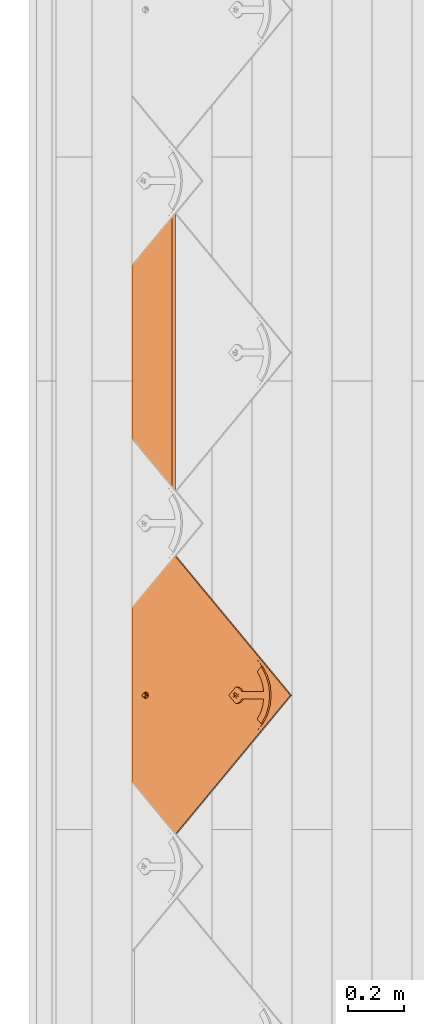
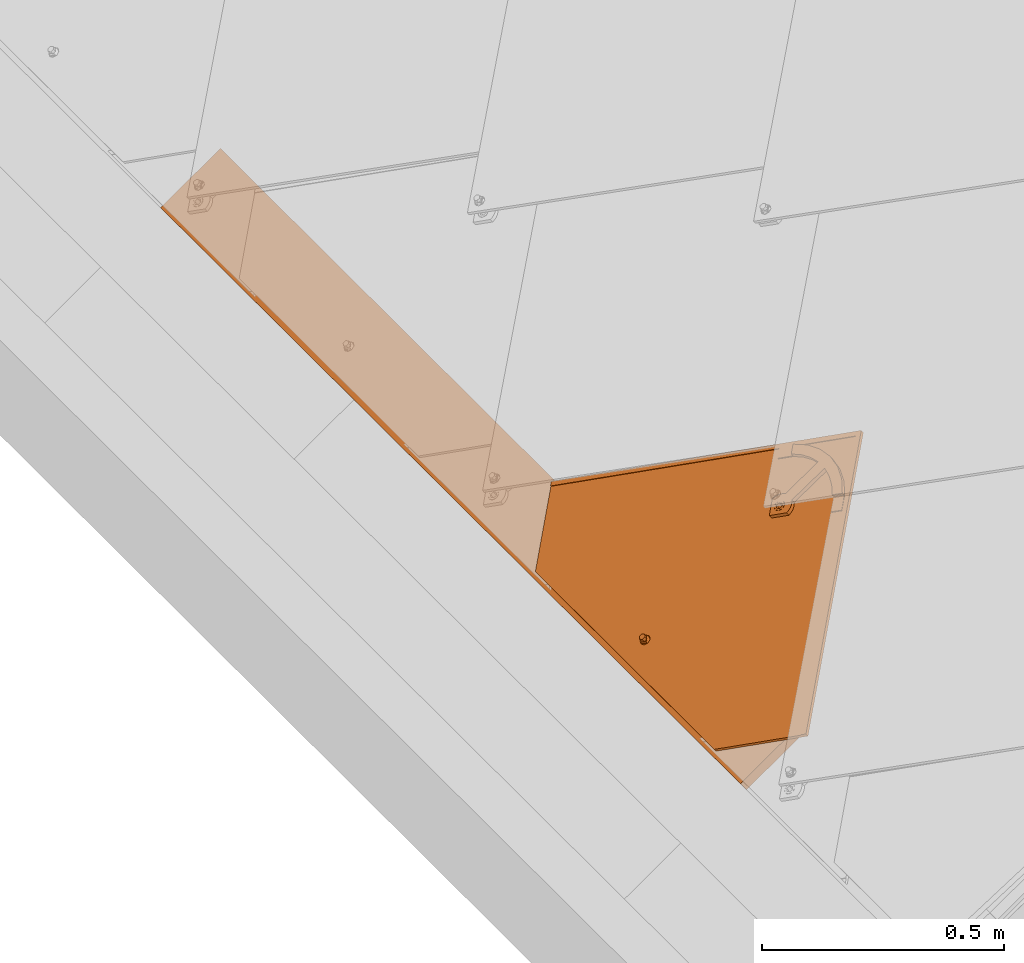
# One storey, part 25 of 151: 2 proxies, 1 element without a shape of its own.
"""IFC2X3 building model written with IfcOpenShell, lengths in millimetres."""

from ifc_helpers import new_model, entity, si_unit, converted_unit, derived_unit, direction, frame, frame_2d, origin, place, context, subcontext, project, spatial, rectangle, extrude, faceted_brep, source, transform, mapped, material, material_list, type_object, type_shapes, element, aggregate, save


model = new_model("IFC2X3")

# Units and contexts
model_context = context("Model", 3, precision=0.01, world=origin(), true_north=direction((6.12303176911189e-17, 1.0)))
body_context = subcontext(model_context, "Body", "Model", "MODEL_VIEW")
ifc_project = project(units=[si_unit("LENGTHUNIT", "METRE", prefix="MILLI"), si_unit("AREAUNIT", "SQUARE_METRE"), si_unit("VOLUMEUNIT", "CUBIC_METRE"), converted_unit("PLANEANGLEUNIT", "DEGREE", entity("IfcRatioMeasure", 0.0174532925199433), si_unit("PLANEANGLEUNIT", "RADIAN"), dimensions=[0, 0, 0, 0, 0, 0, 0]), si_unit("MASSUNIT", "GRAM", prefix="KILO"), derived_unit("MASSDENSITYUNIT", [(si_unit("MASSUNIT", "GRAM", prefix="KILO"), 1), (si_unit("LENGTHUNIT", "METRE"), -3)]), si_unit("TIMEUNIT", "SECOND"), si_unit("FREQUENCYUNIT", "HERTZ"), si_unit("THERMODYNAMICTEMPERATUREUNIT", "DEGREE_CELSIUS"), derived_unit("THERMALTRANSMITTANCEUNIT", [(si_unit("MASSUNIT", "GRAM", prefix="KILO"), 1), (si_unit("THERMODYNAMICTEMPERATUREUNIT", "KELVIN"), -1), (si_unit("TIMEUNIT", "SECOND"), -3)]), derived_unit("VOLUMETRICFLOWRATEUNIT", [(si_unit("LENGTHUNIT", "METRE"), 3), (si_unit("TIMEUNIT", "SECOND"), -1)]), si_unit("ELECTRICCURRENTUNIT", "AMPERE"), si_unit("ELECTRICVOLTAGEUNIT", "VOLT"), si_unit("POWERUNIT", "WATT"), si_unit("FORCEUNIT", "NEWTON", prefix="KILO"), si_unit("ILLUMINANCEUNIT", "LUX"), si_unit("LUMINOUSFLUXUNIT", "LUMEN"), si_unit("LUMINOUSINTENSITYUNIT", "CANDELA"), derived_unit("USERDEFINED", [(si_unit("MASSUNIT", "GRAM", prefix="KILO"), -1), (si_unit("LENGTHUNIT", "METRE"), -2), (si_unit("TIMEUNIT", "SECOND"), 3), (si_unit("LUMINOUSFLUXUNIT", "LUMEN"), 1)]), derived_unit("LINEARVELOCITYUNIT", [(si_unit("LENGTHUNIT", "METRE"), 1), (si_unit("TIMEUNIT", "SECOND"), -1)]), si_unit("PRESSUREUNIT", "PASCAL"), derived_unit("USERDEFINED", [(si_unit("LENGTHUNIT", "METRE"), -2), (si_unit("MASSUNIT", "GRAM", prefix="KILO"), 1), (si_unit("TIMEUNIT", "SECOND"), -2)])], contexts=[model_context])

# Site, building, storey
site_placement = place(None, origin())
site = spatial("IfcSite", under=ifc_project, at=site_placement, Name="Default", CompositionType="ELEMENT")
building_placement = place(site_placement, origin())
building = spatial("IfcBuilding", under=site, at=building_placement, CompositionType="ELEMENT")
storey_placement = place(building_placement, origin())
storey = spatial("IfcBuildingStorey", under=building, at=storey_placement, Name="Level 1", CompositionType="ELEMENT", Elevation=0.0)

# Assembly, proxy
assembly_placement = place(storey_placement, origin())
assembly = element("IfcElementAssembly", 1, at=assembly_placement, inside=storey, Name="Structural Framing Assembly:Roof Construction Assembly", ObjectType="Structural Framing Assembly:Roof Construction Assembly", AssemblyPlace="NOTDEFINED", PredefinedType="USERDEFINED")
ifc_material_1 = material(Name="Wood - Generic - Wood For Showcase")
building_element_proxy_type_1 = type_object("IfcBuildingElementProxyType", Name="Structural Framing 15", PredefinedType="NOTDEFINED", material=ifc_material_1)
shared_shape_1 = source(origin(), body_context, "Body", "SweptSolid", [
    extrude(rectangle(XDim=24.9999999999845, YDim=174.344679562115, at=frame_2d((-1.77635683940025e-13, -4.54747350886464e-13), x_axis=(0.0, 1.0))), frame((1128.20180147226, 1525.55080214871, 2760.23940055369), z_axis=(0.0, 1.0, 0.0), x_axis=(-0.819152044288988, 0.0, -0.573576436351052)), (0.0, 0.0, 1.0), 2400.0),
])
type_shapes(building_element_proxy_type_1, [shared_shape_1])
proxy_1_placement = place(assembly_placement, frame((-3370.06734507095, -4870.0, -2400.0)))
proxy_1 = element("IfcBuildingElementProxy", 2, at=proxy_1_placement, type_object=building_element_proxy_type_1, material=ifc_material_1, Name="Structural Framing 137:Structural Framing 15", ObjectType="Structural Framing 137:Structural Framing 15", context=body_context, shape_type="MappedRepresentation", body=[
    mapped(shared_shape_1, transform((0.0, 0.0, 0.0), scale=1.0)),
])
aggregate(assembly, [proxy_1])

# Proxy
ifc_material_2 = material(Name="Rubber - Sunstyle - Black")
ifc_material_3 = material(Name="Glass - Sunstyle - Tainted Black")
ifc_material_list_1 = material_list([ifc_material_2, ifc_material_3])
ifc_material_list_2 = material_list([ifc_material_2, ifc_material_3])
building_element_proxy_type_2 = type_object("IfcBuildingElementProxyType", Name="Shingle Bottom - Black", PredefinedType="NOTDEFINED", material=ifc_material_list_2)
shared_shape_2 = source(origin(), body_context, "Body", "Brep", [
    faceted_brep([(0.0, -1.79273515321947, -4.01619789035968), (-5.7742028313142, -5.12600528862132, -3.96037390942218), (-5.77420283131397, -4.75769619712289, 18.0314954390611), (0.0, -1.42442606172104, 17.9756714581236), (-5.77420283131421, -11.792545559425, -3.84872594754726), (-5.77420283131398, -11.4242364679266, 18.143143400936), (0.0, -15.1258156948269, -3.79290196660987), (0.0, -14.7575066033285, 18.1989673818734), (5.77420283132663, -11.7925455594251, -3.84872594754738), (5.77420283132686, -11.4242364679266, 18.1431434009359), (5.77420283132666, -5.12600528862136, -3.96037390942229), (5.77420283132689, -4.75769619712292, 18.031495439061), (-8.60370416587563, -16.6934641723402, 18.2313898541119), (0.0, -20.2567354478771, 18.2910657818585), (-12.1674751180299, -8.09096633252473, 18.0873194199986), (-8.60370416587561, 0.511531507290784, 17.9432489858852), (0.0, 4.07480278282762, 17.8835730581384), (8.60370416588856, 0.511531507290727, 17.9432489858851), (12.1674751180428, -8.09096633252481, 18.0873194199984), (8.60370416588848, -16.6934641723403, 18.2313898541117), (-11.4302228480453, -6.71737066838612, 20.4858706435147), (-9.77051349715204, -8.02009729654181, 22.3189355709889), (0.0, -0.706876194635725, 22.9603444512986), (0.0, 0.533621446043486, 22.3799978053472), (0.0, 2.69117229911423, 21.3706227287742), (-6.32324569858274, -4.35709193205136, 23.021476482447), (-6.32324569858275, -11.6575234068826, 23.1437405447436), (0.0, -18.7571148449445, 21.7298281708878), (0.0, -15.3077391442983, 23.2048725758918), (10.9851748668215, -11.808022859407, 20.3827540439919), (10.123850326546, -8.02413622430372, 22.0777687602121), (6.32324569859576, -4.3570919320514, 23.0214764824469), (6.32324569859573, -11.6575234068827, 23.1437405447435), (-6.32324569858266, -11.5234949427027, 31.146628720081), (0.0, -15.1737106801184, 31.2077607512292), (0.0, -7.8732792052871, 31.0854966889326), (-6.32324569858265, -4.22306346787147, 31.0243646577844), (6.32324569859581, -11.5234949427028, 31.1466287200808), (6.32324569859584, -4.22306346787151, 31.0243646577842), (0.0, -0.57284773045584, 30.963232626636), (0.0, -8.45927542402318, -3.90454992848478)], [[[0, 1, 2, 3]], [[1, 4, 5, 2]], [[4, 6, 7, 5]], [[6, 8, 9, 7]], [[8, 10, 11, 9]], [[10, 0, 3, 11]], [[12, 7, 13]], [[7, 12, 5]], [[14, 5, 12]], [[5, 14, 2]], [[15, 2, 14]], [[3, 2, 15]], [[15, 16, 3]], [[16, 17, 3]], [[11, 3, 17]], [[11, 17, 18]], [[9, 11, 18]], [[18, 19, 9]], [[7, 9, 19]], [[19, 13, 7]], [[15, 20, 16]], [[21, 22, 23, 24]], [[22, 21, 25]], [[20, 14, 12]], [[15, 14, 20]], [[25, 21, 26]], [[20, 24, 16]], [[12, 13, 27]], [[12, 27, 20]], [[21, 28, 26]], [[21, 27, 28]], [[20, 21, 24]], [[20, 27, 21]], [[19, 29, 13]], [[30, 23, 31]], [[30, 28, 27]], [[24, 23, 30]], [[29, 27, 13]], [[19, 18, 29]], [[29, 30, 27]], [[29, 17, 24]], [[24, 17, 16]], [[31, 32, 30]], [[23, 22, 31]], [[28, 30, 32]], [[29, 24, 30]], [[29, 18, 17]], [[33, 34, 35]], [[35, 36, 33]], [[34, 37, 35]], [[38, 35, 37]], [[35, 38, 39]], [[35, 39, 36]], [[40, 6, 4]], [[4, 1, 40]], [[1, 0, 40]], [[40, 8, 6]], [[0, 10, 40]], [[8, 40, 10]], [[22, 25, 36, 39]], [[25, 26, 33, 36]], [[26, 28, 34, 33]], [[28, 32, 37, 34]], [[32, 31, 38, 37]], [[31, 22, 39, 38]]]),
    faceted_brep([(0.0, 372.824876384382, 20.3195200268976), (0.0, 377.324245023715, 20.2441667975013), (-8.60370416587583, 376.388147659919, 20.2598440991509), (8.60370416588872, 376.388147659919, 20.2598440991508), (6.64022859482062, 381.157445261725, 20.1799702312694), (12.1674751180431, 384.990645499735, 20.1157736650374), (6.64022859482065, 388.823845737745, 20.0515770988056), (8.6037041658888, 393.59314333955, 19.9717032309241), (0.0, 392.657045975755, 19.9873805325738), (0.0, 397.156414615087, 19.9120273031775), (-8.60370416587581, 393.59314333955, 19.9717032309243), (-6.64022859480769, 388.823845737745, 20.0515770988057), (-12.1674751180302, 384.990645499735, 20.1157736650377), (-6.6402285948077, 381.157445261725, 20.1799702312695), (-6.6402282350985, 388.555922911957, 4.05382046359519), (0.0, 392.389122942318, 3.98962390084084), (-6.64022823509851, 380.889522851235, 4.18221358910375), (0.0, 377.056322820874, 4.24641015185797), (6.64022823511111, 380.889522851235, 4.18221358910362), (6.64022823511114, 388.555922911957, 4.05382046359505), (-8.603704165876, 376.12022504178, 4.26208746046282), (0.0, 372.556953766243, 4.32176338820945), (-12.1674751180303, 384.722722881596, 4.11801702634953), (-8.60370416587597, 393.325220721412, 3.97394659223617), (0.0, 396.888491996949, 3.91427066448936), (8.60370416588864, 393.325220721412, 3.97394659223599), (12.1674751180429, 384.722722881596, 4.11801702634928), (8.60370416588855, 376.12022504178, 4.26208746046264)], [[[0, 1, 2]], [[1, 0, 3]], [[3, 4, 1]], [[4, 3, 5]], [[6, 4, 5]], [[5, 7, 6]], [[7, 8, 6]], [[8, 7, 9]], [[8, 9, 10]], [[10, 11, 8]], [[12, 11, 10]], [[2, 13, 12]], [[12, 13, 11]], [[13, 2, 1]], [[8, 11, 14, 15]], [[11, 13, 16, 14]], [[13, 1, 17, 16]], [[1, 4, 18, 17]], [[4, 6, 19, 18]], [[6, 8, 15, 19]], [[20, 17, 21]], [[17, 20, 16]], [[22, 16, 20]], [[14, 16, 22]], [[23, 14, 22]], [[15, 14, 23]], [[23, 24, 15]], [[24, 25, 15]], [[19, 15, 25]], [[19, 25, 26]], [[26, 18, 19]], [[26, 27, 18]], [[17, 18, 27]], [[27, 21, 17]], [[24, 23, 10, 9]], [[10, 23, 22, 12]], [[20, 21, 0, 2]], [[20, 2, 12, 22]], [[21, 27, 3, 0]], [[3, 27, 26, 5]], [[25, 24, 9, 7]], [[25, 7, 5, 26]]]),
    faceted_brep([(518.247351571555, 79.9143812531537, 14.965257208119), (526.732038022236, 88.3990677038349, 14.8231598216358), (526.732038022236, 88.4241854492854, 16.3229495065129), (518.247351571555, 79.9394989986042, 16.4650468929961), (0.000322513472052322, 598.016093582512, 6.28834266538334), (-518.246706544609, 79.9143812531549, 14.9652572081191), (-526.73139299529, 88.3990677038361, 14.8231598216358), (0.000322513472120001, 614.983087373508, 6.00418773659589), (0.000322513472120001, 615.008205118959, 7.50397742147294), (-526.731392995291, 88.4241854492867, 16.3229495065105), (-518.246706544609, 79.9394989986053, 16.465046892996), (0.000322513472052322, 598.041211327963, 7.78813235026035)], [[[0, 1, 2, 3]], [[1, 0, 4, 5, 6, 7]], [[2, 1, 7, 8]], [[3, 2, 8, 9, 10, 11]], [[0, 3, 11, 4]], [[5, 10, 9, 6]], [[8, 7, 6, 9]], [[4, 11, 10, 5]]]),
    faceted_brep([(0.00032251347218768, 614.983087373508, 6.00418773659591), (-2.87802047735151, 396.187349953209, 9.66847193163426), (0.227808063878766, 396.596182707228, 9.6616250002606), (-5.77219193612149, 394.988712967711, 9.68854611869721), (3.3336366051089, 396.187349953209, 9.66847193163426), (6.22780806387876, 394.988712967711, 9.6885461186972), (8.71308943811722, 393.081956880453, 9.72047953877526), (10.620112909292, 390.59702396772, 9.76209598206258), (-8.25747331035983, 393.081956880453, 9.72047953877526), (-10.1644967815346, 390.59702396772, 9.76209598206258), (-11.3633018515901, 387.703258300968, 9.81055935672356), (-526.731392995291, 88.3990677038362, 14.8231598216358), (11.8189179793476, 387.703258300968, 9.81055935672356), (526.732038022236, 88.3990677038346, 14.8231598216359), (-11.7721919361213, 384.597865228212, 9.86256696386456), (-11.3633018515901, 381.492472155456, 9.91457457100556), (-10.1644967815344, 378.598706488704, 9.96303794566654), (-370.355016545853, -67.9334607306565, 17.4413406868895), (-8.25747331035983, 376.113773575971, 10.0046543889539), (-5.65685424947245, -2.29422365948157, 16.3420467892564), (-6.92820323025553, -3.95084560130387, 16.3697910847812), (-7.72740661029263, -5.88002271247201, 16.4021000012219), (-8.0, -7.95028476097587, 16.4367717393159), (-7.72740661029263, -10.0205468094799, 16.4714434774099), (-6.9282032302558, -11.9497239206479, 16.5037523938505), (-5.65685424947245, -13.6063458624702, 16.5314966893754), (-4.0, -14.8775165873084, 16.5527856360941), (-2.07055236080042, -15.676607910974, 16.5661684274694), (0.0, -15.9491630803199, 16.5707330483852), (370.355661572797, -67.9334607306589, 17.4413406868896), (10.620112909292, 378.598706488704, 9.96303794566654), (8.71308943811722, 376.11377357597, 10.0046543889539), (5.65685424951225, -2.29422365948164, 16.3420467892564), (6.92820323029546, -3.9508456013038, 16.3697910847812), (7.72740661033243, -5.88002271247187, 16.4021000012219), (8.0, -7.9502847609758, 16.4367717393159), (7.72740661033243, -10.0205468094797, 16.4714434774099), (6.92820323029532, -11.9497239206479, 16.5037523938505), (5.65685424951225, -13.6063458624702, 16.5314966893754), (4.0, -14.8775165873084, 16.5527856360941), (2.07055236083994, -15.676607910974, 16.5661684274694), (-5.77219193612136, 374.207017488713, 10.0365878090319), (-4.0, -1.02305293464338, 16.3207578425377), (-2.87802047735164, 373.008380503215, 10.0566619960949), (-2.07055236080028, -0.223961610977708, 16.3073750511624), (0.227808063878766, 372.599547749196, 10.0635089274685), (0.0, 0.0485935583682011, 16.3028104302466), (2.07055236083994, -0.223961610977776, 16.3073750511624), (3.3336366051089, 373.008380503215, 10.0566619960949), (4.0, -1.02305293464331, 16.3207578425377), (6.22780806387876, 374.207017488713, 10.0365878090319), (12.2278080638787, 384.597865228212, 9.86256696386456), (11.8189179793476, 381.492472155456, 9.91457457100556), (-370.355016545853, -68.059049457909, 9.94239226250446), (-6.92820323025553, -4.07643432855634, 8.87084266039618), (-7.72740661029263, -6.00561143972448, 8.90315157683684), (-8.0, -8.07587348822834, 8.93782331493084), (-7.72740661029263, -10.1461355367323, 8.97249505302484), (-6.9282032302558, -12.0753126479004, 9.00480396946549), (-5.65685424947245, -13.7319345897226, 9.03254826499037), (-5.65685424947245, -2.41981238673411, 8.8430983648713), (-8.25747331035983, 375.988184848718, 2.50570596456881), (-4.0, -15.0031053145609, 9.05383721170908), (-2.07055236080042, -15.8021966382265, 9.06722000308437), (0.0, -16.0747518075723, 9.07178462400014), (370.355661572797, -68.0590494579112, 9.9423922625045), (-10.1644967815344, 378.473117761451, 2.46408952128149), (-526.731392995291, 88.2734789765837, 7.32421139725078), (-11.3633018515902, 381.366883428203, 2.41562614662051), (-11.7721919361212, 384.472276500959, 2.36361853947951), (-11.3633018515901, 387.577669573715, 2.3116109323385), (0.00032251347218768, 614.857498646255, -1.49476068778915), (-10.1644967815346, 390.471435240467, 2.26314755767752), (-8.25747331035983, 392.956368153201, 2.22153111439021), (-5.77219193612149, 394.863124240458, 2.18959769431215), (-2.87802047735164, 396.061761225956, 2.16952350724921), (0.227808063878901, 396.470593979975, 2.16267657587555), (3.3336366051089, 396.061761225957, 2.1695235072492), (6.22780806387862, 394.863124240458, 2.18959769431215), (8.71308943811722, 392.956368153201, 2.2215311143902), (10.620112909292, 390.471435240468, 2.26314755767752), (11.8189179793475, 387.577669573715, 2.31161093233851), (526.732038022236, 88.2734789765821, 7.32421139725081), (12.2278080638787, 384.472276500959, 2.3636185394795), (10.620112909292, 378.473117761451, 2.46408952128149), (11.8189179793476, 381.366883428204, 2.41562614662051), (-5.77219193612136, 374.08142876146, 2.53763938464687), (-4.0, -1.14864166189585, 8.8218094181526), (-2.87802047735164, 372.882791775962, 2.55771357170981), (-2.07055236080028, -0.349550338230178, 8.8084266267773), (0.227808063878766, 372.473959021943, 2.56456050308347), (0.0, -0.0769951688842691, 8.80386200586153), (2.07055236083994, -0.349550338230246, 8.8084266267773), (3.3336366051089, 372.882791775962, 2.55771357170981), (4.0, -1.14864166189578, 8.8218094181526), (6.22780806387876, 374.081428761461, 2.53763938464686), (5.65685424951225, -2.41981238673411, 8.8430983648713), (8.71308943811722, 375.988184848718, 2.50570596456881), (6.92820323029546, -4.07643432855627, 8.87084266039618), (7.72740661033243, -6.00561143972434, 8.90315157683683), (8.0, -8.07587348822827, 8.93782331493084), (7.72740661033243, -10.1461355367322, 8.97249505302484), (6.92820323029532, -12.0753126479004, 9.00480396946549), (5.65685424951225, -13.7319345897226, 9.03254826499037), (4.0, -15.0031053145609, 9.05383721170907), (2.07055236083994, -15.8021966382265, 9.06722000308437)], [[[0, 1, 2]], [[1, 0, 3]], [[0, 2, 4]], [[4, 5, 0]], [[5, 6, 0]], [[0, 6, 7]], [[8, 3, 0]], [[9, 8, 0]], [[9, 0, 10]], [[10, 0, 11]], [[12, 0, 7]], [[12, 13, 0]], [[11, 14, 10]], [[14, 11, 15]], [[16, 15, 11]], [[11, 17, 16]], [[16, 17, 18]], [[19, 18, 17]], [[19, 17, 20]], [[20, 17, 21]], [[22, 21, 17]], [[22, 17, 23]], [[24, 23, 17]], [[17, 25, 24]], [[26, 25, 17]], [[27, 26, 17]], [[17, 28, 27]], [[28, 17, 29]], [[29, 13, 30]], [[29, 30, 31]], [[29, 31, 32]], [[32, 33, 29]], [[33, 34, 29]], [[35, 29, 34]], [[29, 35, 36]], [[36, 37, 29]], [[29, 37, 38]], [[38, 39, 29]], [[40, 28, 29]], [[39, 40, 29]], [[41, 18, 19]], [[42, 41, 19]], [[42, 43, 41]], [[44, 43, 42]], [[44, 45, 43]], [[46, 45, 44]], [[47, 45, 46]], [[48, 45, 47]], [[49, 48, 47]], [[49, 50, 48]], [[32, 50, 49]], [[32, 31, 50]], [[12, 51, 13]], [[52, 13, 51]], [[13, 52, 30]], [[53, 54, 55]], [[53, 55, 56]], [[56, 57, 53]], [[57, 58, 53]], [[53, 58, 59]], [[60, 54, 53]], [[61, 60, 53]], [[59, 62, 53]], [[62, 63, 53]], [[63, 64, 53]], [[53, 64, 65]], [[66, 61, 53]], [[66, 53, 67]], [[68, 66, 67]], [[69, 68, 67]], [[69, 67, 70]], [[67, 71, 70]], [[72, 70, 71]], [[73, 72, 71]], [[71, 74, 73]], [[74, 71, 75]], [[75, 71, 76]], [[77, 76, 71]], [[77, 71, 78]], [[79, 78, 71]], [[71, 80, 79]], [[80, 71, 81]], [[71, 82, 81]], [[83, 81, 82]], [[84, 82, 65]], [[85, 82, 84]], [[82, 85, 83]], [[86, 60, 61]], [[86, 87, 60]], [[88, 87, 86]], [[89, 87, 88]], [[90, 89, 88]], [[90, 91, 89]], [[92, 91, 90]], [[92, 90, 93]], [[94, 92, 93]], [[93, 95, 94]], [[94, 95, 96]], [[97, 96, 95]], [[96, 97, 65]], [[84, 65, 97]], [[98, 96, 65]], [[99, 98, 65]], [[99, 65, 100]], [[101, 100, 65]], [[102, 101, 65]], [[103, 102, 65]], [[104, 103, 65]], [[105, 104, 65]], [[65, 64, 105]], [[11, 0, 71, 67]], [[17, 11, 67, 53]], [[13, 29, 65, 82]], [[0, 13, 82, 71]], [[22, 56, 55, 21]], [[21, 55, 54, 20]], [[42, 19, 60, 87]], [[60, 19, 20, 54]], [[44, 42, 87, 89]], [[44, 89, 91, 46]], [[46, 91, 92, 47]], [[47, 92, 94, 49]], [[33, 32, 96, 98]], [[96, 32, 49, 94]], [[34, 33, 98, 99]], [[34, 99, 100, 35]], [[35, 100, 101, 36]], [[36, 101, 102, 37]], [[39, 38, 103, 104]], [[103, 38, 37, 102]], [[40, 39, 104, 105]], [[40, 105, 64, 28]], [[28, 64, 63, 27]], [[27, 63, 62, 26]], [[24, 25, 59, 58]], [[59, 25, 26, 62]], [[23, 24, 58, 57]], [[23, 57, 56, 22]], [[14, 69, 70, 10]], [[10, 70, 72, 9]], [[3, 8, 73, 74]], [[73, 8, 9, 72]], [[1, 3, 74, 75]], [[1, 75, 76, 2]], [[2, 76, 77, 4]], [[4, 77, 78, 5]], [[7, 6, 79, 80]], [[79, 6, 5, 78]], [[12, 7, 80, 81]], [[12, 81, 83, 51]], [[51, 83, 85, 52]], [[52, 85, 84, 30]], [[50, 31, 97, 95]], [[97, 31, 30, 84]], [[48, 50, 95, 93]], [[48, 93, 90, 45]], [[45, 90, 88, 43]], [[43, 88, 86, 41]], [[16, 18, 61, 66]], [[41, 86, 61, 18]], [[68, 15, 16, 66]], [[15, 68, 69, 14]], [[29, 17, 53, 65]]]),
    faceted_brep([(-111.269043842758, 451.472531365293, 11.2429332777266), (-84.9443960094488, 477.793488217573, 10.8021227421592), (-102.027571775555, 494.874268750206, 10.5160621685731), (-108.279973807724, 489.512620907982, 10.6058564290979), (-114.2509690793, 483.839345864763, 10.7008696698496), (-128.946713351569, 469.147722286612, 10.9469178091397), (128.946713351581, 469.147722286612, 10.9469178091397), (114.250969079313, 483.839345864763, 10.7008696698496), (108.279973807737, 489.512620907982, 10.6058564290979), (102.027571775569, 494.874268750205, 10.5160621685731), (84.9431983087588, 477.794685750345, 10.802102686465), (111.269043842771, 451.472531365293, 11.2429332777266), (-8.48528137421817, 393.302959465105, 19.7181805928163), (-18.7041061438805, 407.484939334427, 19.4806677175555), (-23.2046504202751, 402.851933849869, 19.5582590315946), (-10.3923048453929, 390.818026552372, 19.7597970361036), (-6.0, 395.209715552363, 19.6862471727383), (-13.2999999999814, 411.02298750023, 19.4214142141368), (-3.10582854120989, 396.408352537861, 19.6661729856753), (0.0, 396.81718529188, 19.6593260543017), (13.3000000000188, 411.022987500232, 19.4214142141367), (3.10582854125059, 396.408352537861, 19.6661729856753), (6.0, 395.209715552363, 19.6862471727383), (18.7041061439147, 407.484939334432, 19.4806677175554), (8.48528137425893, 393.302959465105, 19.7181805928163), (23.2046504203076, 402.85193384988, 19.5582590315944), (10.3923048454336, 390.818026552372, 19.7597970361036), (26.5842195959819, 397.347783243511, 19.6504398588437), (11.5911099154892, 387.92426088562, 19.8082604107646), (28.6795527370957, 391.238383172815, 19.752757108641), (12.0, 384.818867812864, 19.8602680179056), (29.3894280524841, 384.818867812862, 19.8602680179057), (11.5911099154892, 381.713474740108, 19.9122756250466), (10.3923048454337, 378.819709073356, 19.9607389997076), (8.48528137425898, 376.334776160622, 20.0023554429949), (0.0, 355.433560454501, 20.3523987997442), (6.0, 374.428020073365, 20.034288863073), (3.10582854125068, 373.229383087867, 20.0543630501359), (0.0, 372.820550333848, 20.0612099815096), (-3.10582854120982, 373.229383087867, 20.0543630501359), (-6.0, 374.428020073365, 20.034288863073), (-8.48528137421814, 376.334776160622, 20.0023554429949), (-29.3894280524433, 384.818867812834, 19.8602680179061), (-10.3923048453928, 378.819709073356, 19.9607389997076), (-11.5911099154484, 381.713474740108, 19.9122756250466), (-12.0, 384.818867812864, 19.8602680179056), (-28.67955273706, 391.238383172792, 19.7527571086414), (-11.5911099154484, 387.92426088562, 19.8082604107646), (-26.5842195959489, 397.347783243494, 19.650439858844), (-13.2999999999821, 505.810987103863, 17.833951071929), (13.3000000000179, 505.810987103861, 17.833951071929), (0.0, 531.282600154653, 17.4073649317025), (36.4908407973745, 527.108634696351, 17.4772684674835), (38.7697427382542, 500.996106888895, 17.9145883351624), (71.096085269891, 514.802420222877, 17.6833669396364), (62.9243331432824, 491.592473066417, 18.0720758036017), (102.027571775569, 494.999857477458, 18.0150105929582), (84.9443960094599, 477.919076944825, 18.3010711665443), (-36.4908407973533, 527.108634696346, 17.4772684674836), (-38.7697427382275, 500.996106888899, 17.9145883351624), (-71.0960852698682, 514.802420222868, 17.6833669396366), (-62.9243331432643, 491.592473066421, 18.0720758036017), (-102.027571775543, 494.999857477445, 18.0150105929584), (-84.9443960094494, 477.919076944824, 18.3010711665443), (0.0, 355.266108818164, 10.3538009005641), (0.0, 372.653098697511, 10.0626120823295), (3.10582854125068, 373.06193145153, 10.0557651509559), (-3.10582854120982, 373.06193145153, 10.0557651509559), (6.0, 374.260568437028, 10.0356909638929), (8.48528137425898, 376.167324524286, 10.0037575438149), (29.3894280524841, 384.651416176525, 9.86167011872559), (-6.0, 374.260568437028, 10.0356909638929), (-8.48528137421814, 376.167324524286, 10.0037575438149), (-29.3894280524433, 384.651416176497, 9.86167011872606), (-10.3923048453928, 378.652257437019, 9.96214110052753), (-11.5911099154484, 381.546023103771, 9.91367772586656), (-12.0, 384.651416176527, 9.86167011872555), (-28.67955273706, 391.070931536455, 9.75415920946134), (-11.5911099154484, 387.756809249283, 9.80966251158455), (-26.5842195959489, 397.180331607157, 9.65184195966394), (-10.3923048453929, 390.650574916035, 9.76119913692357), (-23.2046504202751, 402.684482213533, 9.5596611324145), (-8.48528137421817, 393.135507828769, 9.71958269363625), (-18.7041061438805, 407.31748769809, 9.48206981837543), (-6.0, 395.042263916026, 9.6876492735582), (-13.2999999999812, 410.855535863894, 9.4228163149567), (-3.10582854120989, 396.240900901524, 9.66757508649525), (0.0, 396.649733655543, 9.66072815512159), (13.3000000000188, 410.855535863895, 9.42281631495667), (-13.2999999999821, 505.643535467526, 7.83535317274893), (13.3000000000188, 505.643535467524, 7.83535317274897), (0.0, 531.115148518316, 7.4087670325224), (-36.4908407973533, 526.94118306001, 7.47867056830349), (-38.7697427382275, 500.828655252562, 7.91599043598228), (-71.0960852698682, 514.634968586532, 7.68476904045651), (-62.9243331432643, 491.425021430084, 8.07347790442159), (-102.027571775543, 494.832405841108, 8.01641269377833), (-84.9431983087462, 477.752822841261, 8.30245321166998), (-108.279973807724, 489.470757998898, 8.10620695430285), (-114.2509690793, 483.79748295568, 8.2012201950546), (-111.269043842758, 451.430668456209, 8.74328380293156), (-128.946713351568, 469.105859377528, 8.44726833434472), (36.4908407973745, 526.941183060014, 7.47867056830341), (38.7697427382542, 500.828655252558, 7.91599043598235), (71.096085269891, 514.634968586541, 7.68476904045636), (62.9243331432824, 491.425021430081, 8.07347790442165), (102.027571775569, 494.832405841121, 8.01641269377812), (84.9443960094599, 477.751625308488, 8.30247326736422), (108.279973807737, 489.470757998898, 8.10620695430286), (114.250969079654, 483.797482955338, 8.20122019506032), (111.269043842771, 451.430668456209, 8.74328380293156), (128.946713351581, 469.105859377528, 8.44726833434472), (3.10582854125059, 396.240900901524, 9.66757508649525), (6.0, 395.042263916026, 9.6876492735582), (18.7041061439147, 407.317487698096, 9.48206981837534), (8.48528137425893, 393.135507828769, 9.71958269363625), (23.2046504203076, 402.684482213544, 9.55966113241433), (10.3923048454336, 390.650574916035, 9.76119913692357), (26.5842195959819, 397.180331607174, 9.65184195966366), (11.5911099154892, 387.756809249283, 9.80966251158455), (28.6795527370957, 391.070931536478, 9.75415920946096), (12.0, 384.651416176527, 9.86167011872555), (11.5911099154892, 381.546023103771, 9.91367772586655), (10.3923048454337, 378.652257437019, 9.96214110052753)], [[[0, 1, 2, 3, 4, 5]], [[6, 7, 8, 9, 10, 11]], [[12, 13, 14]], [[15, 12, 14]], [[16, 13, 12]], [[13, 16, 17]], [[17, 16, 18]], [[18, 19, 17]], [[20, 17, 19]], [[19, 21, 20]], [[22, 20, 21]], [[22, 23, 20]], [[22, 24, 23]], [[25, 23, 24]], [[26, 25, 24]], [[25, 26, 27]], [[26, 28, 27]], [[29, 27, 28]], [[28, 30, 29]], [[31, 29, 30]], [[30, 32, 31]], [[32, 33, 31]], [[31, 33, 34]], [[34, 35, 31]], [[34, 36, 35]], [[37, 35, 36]], [[38, 35, 37]], [[35, 38, 39]], [[40, 35, 39]], [[40, 41, 35]], [[42, 35, 41]], [[43, 42, 41]], [[43, 44, 42]], [[44, 45, 42]], [[45, 46, 42]], [[46, 45, 47]], [[48, 46, 47]], [[47, 15, 48]], [[48, 15, 14]], [[20, 49, 17]], [[49, 20, 50]], [[51, 49, 50]], [[50, 52, 51]], [[53, 52, 50]], [[52, 53, 54]], [[55, 54, 53]], [[54, 55, 56]], [[55, 57, 56]], [[58, 49, 51]], [[49, 58, 59]], [[60, 59, 58]], [[60, 61, 59]], [[61, 60, 62]], [[61, 62, 63]], [[64, 65, 66]], [[65, 64, 67]], [[64, 66, 68]], [[68, 69, 64]], [[64, 69, 70]], [[71, 67, 64]], [[71, 64, 72]], [[72, 64, 73]], [[73, 74, 72]], [[74, 73, 75]], [[76, 75, 73]], [[77, 76, 73]], [[76, 77, 78]], [[78, 77, 79]], [[80, 78, 79]], [[81, 80, 79]], [[82, 80, 81]], [[81, 83, 82]], [[83, 84, 82]], [[84, 83, 85]], [[85, 86, 84]], [[87, 86, 85]], [[87, 85, 88]], [[88, 85, 89]], [[88, 89, 90]], [[89, 91, 90]], [[91, 89, 92]], [[93, 92, 89]], [[94, 92, 93]], [[93, 95, 94]], [[95, 96, 94]], [[97, 96, 95]], [[98, 96, 97]], [[99, 98, 97]], [[97, 100, 99]], [[101, 99, 100]], [[102, 90, 91]], [[90, 102, 103]], [[104, 103, 102]], [[103, 104, 105]], [[105, 104, 106]], [[107, 105, 106]], [[107, 106, 108]], [[109, 107, 108]], [[110, 107, 109]], [[111, 110, 109]], [[87, 88, 112]], [[113, 112, 88]], [[114, 113, 88]], [[115, 113, 114]], [[115, 114, 116]], [[116, 117, 115]], [[116, 118, 117]], [[117, 118, 119]], [[119, 118, 120]], [[121, 119, 120]], [[120, 70, 121]], [[122, 121, 70]], [[70, 69, 123]], [[123, 122, 70]], [[17, 49, 89, 85]], [[13, 17, 85, 83]], [[14, 13, 83, 81]], [[81, 79, 48, 14]], [[46, 48, 79, 77]], [[42, 46, 77, 73]], [[35, 42, 73, 64]], [[31, 35, 64, 70]], [[29, 31, 70, 120]], [[27, 29, 120, 118]], [[118, 116, 25, 27]], [[23, 25, 116, 114]], [[20, 23, 114, 88]], [[50, 20, 88, 90]], [[9, 106, 104, 54, 56]], [[52, 54, 104, 102]], [[51, 52, 102, 91]], [[58, 51, 91, 92]], [[94, 96, 2, 62, 60]], [[60, 58, 92, 94]], [[45, 76, 78, 47]], [[47, 78, 80, 15]], [[16, 12, 82, 84]], [[80, 82, 12, 15]], [[18, 16, 84, 86]], [[87, 19, 18, 86]], [[21, 112, 113, 22]], [[22, 113, 115, 24]], [[28, 26, 117, 119]], [[115, 117, 26, 24]], [[30, 28, 119, 121]], [[21, 19, 87, 112]], [[30, 121, 122, 32]], [[32, 122, 123, 33]], [[36, 34, 69, 68]], [[123, 69, 34, 33]], [[37, 36, 68, 66]], [[65, 38, 37, 66]], [[39, 67, 71, 40]], [[40, 71, 72, 41]], [[44, 43, 74, 75]], [[72, 74, 43, 41]], [[45, 44, 75, 76]], [[39, 38, 65, 67]], [[7, 6, 111, 109]], [[6, 11, 110, 111]], [[7, 109, 108, 8]], [[108, 106, 9, 8]], [[11, 10, 107, 110]], [[0, 5, 101, 100]], [[1, 0, 100, 97]], [[2, 96, 98, 3]], [[98, 99, 4, 3]], [[5, 4, 99, 101]], [[63, 62, 2, 1]], [[56, 57, 10]], [[10, 9, 56]], [[1, 95, 61, 63]], [[1, 97, 95]], [[93, 89, 49, 59]], [[95, 93, 59, 61]], [[90, 103, 53, 50]], [[103, 105, 55, 53]], [[10, 57, 55]], [[107, 10, 105]], [[55, 105, 10]]]),
])
type_shapes(building_element_proxy_type_2, [shared_shape_2])
proxy_2_placement = place(storey_placement, frame((-2254.8016454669, -2865.86169979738, 366.44112686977), z_axis=(-0.57357643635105, 0.0, 0.819152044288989), x_axis=(0.0, -1.0, 0.0)))
element("IfcBuildingElementProxy", 3, at=proxy_2_placement, inside=storey, type_object=building_element_proxy_type_2, material=ifc_material_list_1, Name="Roofing_Panels_SunStyle_Tile_Shingle-Bottom:Shingle Bottom - Black", ObjectType="Roofing_Panels_SunStyle_Tile_Shingle-Bottom:Shingle Bottom - Black", context=body_context, shape_type="MappedRepresentation", body=[
    mapped(shared_shape_2, transform((0.0, 0.0, 0.0), scale=1.0)),
])

save(model, "model.ifc")
